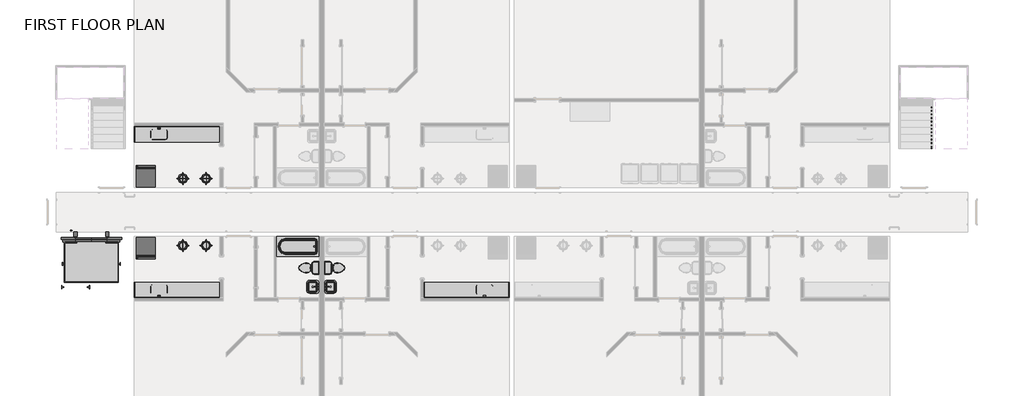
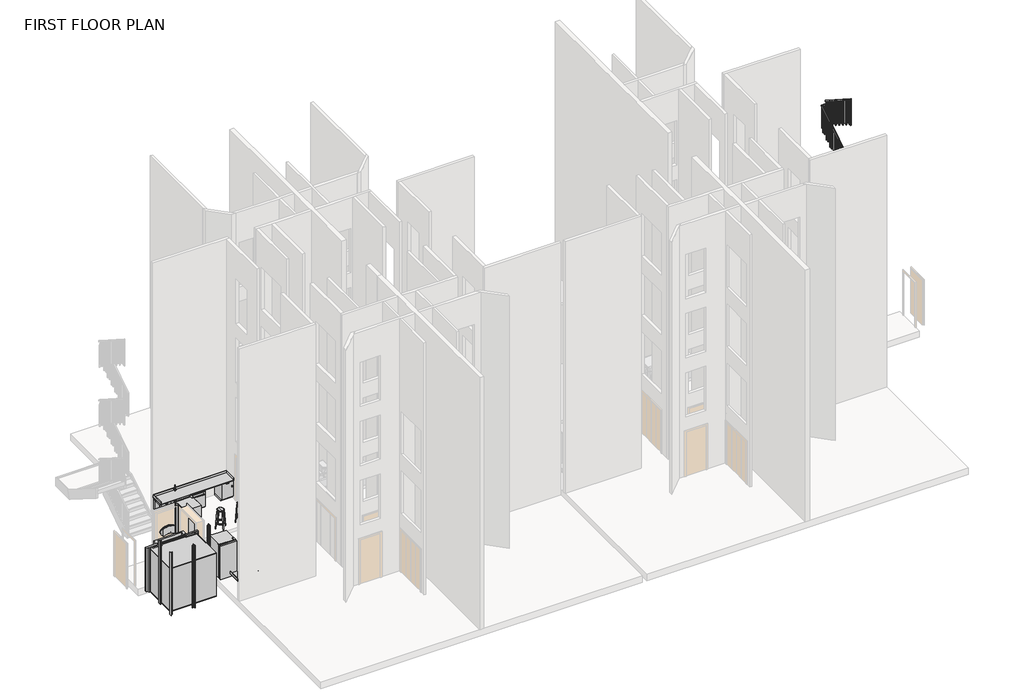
# One storey, part 5 of 7: 21 furniture elements, 8 flow terminals, 6 proxies, 1 railing.
"""IFC4 building model written with IfcOpenShell, lengths in millimetres."""

from ifc_helpers import new_model, si_unit, frame, origin, place, context, project, spatial, polyline, outline, extrude, transform, mapped, element, save
from components import specialty_equipment_021a704d, specialty_equipment_83a1406d, elevator_updated_4116_1_2100_x_1100mm_5fb4b6ca, k2515_dishwasher_household_k2515_dishwasher_household_cf2658f5, lsy_sink_1a_065a4558, lsy_sink_1a_83b20bf5, flow_terminal_62a433f7, toilet_domestic_3d_toilet_domestic_3d_f7549cf7, toilet_domestic_3d_toilet_domestic_3d_183bbd19, toilet_domestic_3d_toilet_domestic_3d_a08e12bc, toilet_domestic_3d_toilet_domestic_3d_5530cc89, tub_rectangular_3d_tub_rectangular_3d_4e1d8e59, hb12_hb12_18_c50c6706, hb12_hb12_21_dfdbf895, hb12_hb12_21_72806c5e, hp_1_35d8efb3, lsy_bench_top_24dx36h_e849d271, lsy_bench_top_24dx36h_08832318, lab_stool_lab_stool_8e3c4d68, lab_stool_lab_stool_061d08b2, sb02_sb2_36_93bd8c5c

model = new_model("IFC4")

# Units and contexts
model_context = context("Model", 3, world=origin())
ifc_project = project(units=[si_unit("LENGTHUNIT", "METRE", prefix="MILLI")], contexts=[model_context])

# Site, building, storey
site = spatial("IfcSite", under=ifc_project)
building = spatial("IfcBuilding", under=site)
storey = spatial("IfcBuildingStorey", under=building, Name="FIRST FLOOR PLAN", Elevation=0.0)

# Proxies
placement = place(None, origin())
specialty_equipment_shape = specialty_equipment_021a704d(model_context)
element("IfcBuildingElementProxy", 1, Name="R7000 - Refrigerator, 14 Cubic Feet : R7000 - Refrigerator, 14 Cubic Feet", ObjectType="R7000 - Refrigerator, 14 Cubic Feet : R7000 - Refrigerator, 14 Cubic Feet", at=placement, inside=storey, context=model_context, shape_type="MappedRepresentation", body=[
    mapped(specialty_equipment_shape, transform((-4739.6915125, 4094.7137881, 0.0), x_axis=(1.0, 0.0, 0.0), y_axis=(0.0, 1.0, 0.0), z_axis=(0.0, 0.0, 1.0))),
])
specialty_equipment_2_shape = specialty_equipment_83a1406d(model_context)
element("IfcBuildingElementProxy", 2, Name="R7000 - Refrigerator, 14 Cubic Feet : R7000 - Refrigerator, 14 Cubic Feet", ObjectType="R7000 - Refrigerator, 14 Cubic Feet : R7000 - Refrigerator, 14 Cubic Feet", at=placement, inside=storey, context=model_context, shape_type="MappedRepresentation", body=[
    mapped(specialty_equipment_2_shape, transform((-4739.6915125, 6904.9137881, 0.0), x_axis=(1.0, 0.0, 0.0), y_axis=(0.0, 1.0, 0.0), z_axis=(0.0, 0.0, 1.0))),
])
element("IfcBuildingElementProxy", 3, Name="R7000 - Refrigerator, 14 Cubic Feet : R7000 - Refrigerator, 14 Cubic Feet", ObjectType="R7000 - Refrigerator, 14 Cubic Feet : R7000 - Refrigerator, 14 Cubic Feet", at=placement, inside=storey, context=model_context, shape_type="MappedRepresentation", body=[
    mapped(specialty_equipment_2_shape, transform((-4739.6915125, 6904.9137881, 0.0), x_axis=(1.0, 0.0, 0.0), y_axis=(0.0, 1.0, 0.0), z_axis=(0.0, 0.0, 1.0))),
])
element("IfcBuildingElementProxy", 4, Name="R7000 - Refrigerator, 14 Cubic Feet : R7000 - Refrigerator, 14 Cubic Feet", ObjectType="R7000 - Refrigerator, 14 Cubic Feet : R7000 - Refrigerator, 14 Cubic Feet", at=placement, inside=storey, context=model_context, shape_type="MappedRepresentation", body=[
    mapped(specialty_equipment_2_shape, transform((-4739.6915125, 6904.9137881, 0.0), x_axis=(1.0, 0.0, 0.0), y_axis=(0.0, 1.0, 0.0), z_axis=(0.0, 0.0, 1.0))),
])
elevator_updated_4116_1_2100_x_1100mm_shape = elevator_updated_4116_1_2100_x_1100mm_5fb4b6ca(model_context)
element("IfcBuildingElementProxy", 5, Name="Elevator_updated_4116 (1) : 2100 x 1100mm", ObjectType="Elevator_updated_4116 (1) : 2100 x 1100mm", at=placement, inside=storey, context=model_context, shape_type="MappedRepresentation", body=[
    mapped(elevator_updated_4116_1_2100_x_1100mm_shape, transform((-6636.3967221, 4208.6087711, 0.0), x_axis=(-1.0, 0.0, 0.0), y_axis=(0.0, -1.0, 0.0), z_axis=(0.0, 0.0, 1.0))),
])
k2515_dishwasher_household_k2515_dishwasher_household_shape = k2515_dishwasher_household_k2515_dishwasher_household_cf2658f5(model_context)
element("IfcBuildingElementProxy", 6, Name="K2515 - Dishwasher, Household : K2515 - Dishwasher, Household", ObjectType="K2515 - Dishwasher, Household : K2515 - Dishwasher, Household", at=placement, inside=storey, context=model_context, shape_type="MappedRepresentation", body=[
    mapped(k2515_dishwasher_household_k2515_dishwasher_household_shape, transform((-3453.9790125, 8530.5137881, 0.0), x_axis=(1.0, 0.0, 0.0), y_axis=(0.0, 1.0, 0.0), z_axis=(0.0, 0.0, 1.0))),
])

# Flow terminals
lsy_sink_1a_shape = lsy_sink_1a_065a4558(model_context)
element("IfcFlowTerminal", 7, ObjectType="LSY_Sink_1A : 25\"W x 15\"D", at=placement, inside=storey, context=model_context, shape_type="MappedRepresentation", body=[
    mapped(lsy_sink_1a_shape, transform((-4245.7932531, 8626.5933869, -38.1), x_axis=(1.0, 0.0, 0.0), y_axis=(0.0, 1.0, 0.0), z_axis=(0.0, 0.0, 1.0))),
])
lsy_sink_1a_2_shape = lsy_sink_1a_83b20bf5(model_context)
element("IfcFlowTerminal", 8, ObjectType="LSY_Sink_1A : 25\"W x 15\"D", at=placement, inside=storey, context=model_context, shape_type="MappedRepresentation", body=[
    mapped(lsy_sink_1a_2_shape, transform((-4245.7932531, 2373.0341892, -38.1), x_axis=(1.0, 0.0, 0.0), y_axis=(0.0, 1.0, 0.0), z_axis=(0.0, 0.0, 1.0))),
])
element("IfcFlowTerminal", 9, ObjectType="LSY_Sink_1A : 25\"W x 15\"D", at=placement, inside=storey, context=model_context, shape_type="MappedRepresentation", body=[
    mapped(lsy_sink_1a_2_shape, transform((-4245.7932531, 2373.0341892, -38.1), x_axis=(1.0, 0.0, 0.0), y_axis=(0.0, 1.0, 0.0), z_axis=(0.0, 0.0, 1.0))),
])
flow_terminal_shape = flow_terminal_62a433f7(model_context)
element("IfcFlowTerminal", 10, ObjectType="Sink Vanity-Square : 20\" x 18\"", at=placement, inside=storey, context=model_context, shape_type="MappedRepresentation", body=[
    mapped(flow_terminal_shape, transform((2408.1538885, 2567.7245475, 0.0), x_axis=(0.0, 1.0, 0.0), y_axis=(-1.0, 0.0, 0.0), z_axis=(0.0, 0.0, 1.0))),
])
element("IfcFlowTerminal", 11, ObjectType="Sink Vanity-Square : 20\" x 18\"", at=placement, inside=storey, context=model_context, shape_type="MappedRepresentation", body=[
    mapped(flow_terminal_shape, transform((1815.7630863, 2599.1030286, 0.0), x_axis=(0.0, -1.0, 0.0), y_axis=(1.0, 0.0, 0.0), z_axis=(0.0, 0.0, 1.0))),
])
toilet_domestic_3d_toilet_domestic_3d_shape = toilet_domestic_3d_toilet_domestic_3d_f7549cf7(model_context)
toilet_domestic_3d_toilet_domestic_3d_2_shape = toilet_domestic_3d_toilet_domestic_3d_183bbd19(model_context)
element("IfcFlowTerminal", 12, ObjectType="Toilet-Domestic-3D : Toilet-Domestic-3D", at=placement, inside=storey, context=model_context, shape_type="MappedRepresentation", body=[
    mapped(toilet_domestic_3d_toilet_domestic_3d_shape, transform((2710.0045148, 3320.0137881, 0.0), x_axis=(0.0, 1.0, 0.0), y_axis=(-1.0, 0.0, 0.0), z_axis=(0.0, 0.0, 1.0))),
    mapped(toilet_domestic_3d_toilet_domestic_3d_2_shape, transform((2710.0045148, 3320.0137881, 0.0), x_axis=(0.0, 1.0, 0.0), y_axis=(-1.0, 0.0, 0.0), z_axis=(0.0, 0.0, 1.0))),
])
toilet_domestic_3d_toilet_domestic_3d_3_shape = toilet_domestic_3d_toilet_domestic_3d_a08e12bc(model_context)
toilet_domestic_3d_toilet_domestic_3d_4_shape = toilet_domestic_3d_toilet_domestic_3d_5530cc89(model_context)
element("IfcFlowTerminal", 13, ObjectType="Toilet-Domestic-3D : Toilet-Domestic-3D", at=placement, inside=storey, context=model_context, shape_type="MappedRepresentation", body=[
    mapped(toilet_domestic_3d_toilet_domestic_3d_3_shape, transform((1526.6124601, 3320.0137881, 0.0), x_axis=(0.0, 1.0, 0.0), y_axis=(-1.0, 0.0, 0.0), z_axis=(0.0, 0.0, 1.0))),
    mapped(toilet_domestic_3d_toilet_domestic_3d_4_shape, transform((1526.6124601, 3320.0137881, 0.0), x_axis=(0.0, 1.0, 0.0), y_axis=(-1.0, 0.0, 0.0), z_axis=(0.0, 0.0, 1.0))),
])
tub_rectangular_3d_tub_rectangular_3d_shape = tub_rectangular_3d_tub_rectangular_3d_4e1d8e59(model_context)
element("IfcFlowTerminal", 14, ObjectType="Tub-Rectangular-3D : Tub-Rectangular-3D", at=placement, inside=storey, context=model_context, shape_type="MappedRepresentation", body=[
    mapped(tub_rectangular_3d_tub_rectangular_3d_shape, transform((910.7055188, 4636.2137881, 0.0), x_axis=(-1.0, 0.0, 0.0), y_axis=(0.0, -1.0, 0.0), z_axis=(0.0, 0.0, 1.0))),
])

# Furniture
hb12_hb12_18_shape = hb12_hb12_18_c50c6706(model_context)
element("IfcFurniture", 15, ObjectType="HB12 : HB12-18", at=placement, inside=storey, context=model_context, shape_type="MappedRepresentation", body=[
    mapped(hb12_hb12_18_shape, transform((-4883.0413076, 8848.0137881, 0.0), x_axis=(-1.0, 0.0, 0.0), y_axis=(0.0, -1.0, 0.0), z_axis=(0.0, 0.0, 1.0))),
])
hb12_hb12_21_shape = hb12_hb12_21_dfdbf895(model_context)
element("IfcFurniture", 16, ObjectType="HB12 : HB12-21", at=placement, inside=storey, context=model_context, shape_type="MappedRepresentation", body=[
    mapped(hb12_hb12_21_shape, transform((6377.4211924, 2151.6137881, 0.0), x_axis=(-1.0, 0.0, 0.0), y_axis=(0.0, -1.0, 0.0), z_axis=(0.0, 0.0, 1.0))),
])
element("IfcFurniture", 17, ObjectType="HB12 : HB12-21", at=placement, inside=storey, context=model_context, shape_type="MappedRepresentation", body=[
    mapped(hb12_hb12_21_shape, transform((-2140.8042175, 8848.0137881, 0.0), x_axis=(1.0, 0.0, 0.0), y_axis=(0.0, 1.0, 0.0), z_axis=(0.0, 0.0, 1.0))),
])
hb12_hb12_21_2_shape = hb12_hb12_21_72806c5e(model_context)
element("IfcFurniture", 18, ObjectType="HB12 : HB12-21", at=placement, inside=storey, context=model_context, shape_type="MappedRepresentation", body=[
    mapped(hb12_hb12_21_2_shape, transform((-2140.8042175, 2151.6137881, 0.0), x_axis=(1.0, 0.0, 0.0), y_axis=(0.0, 1.0, 0.0), z_axis=(0.0, 0.0, 1.0))),
])
element("IfcFurniture", 19, ObjectType="HB12 : HB12-21", at=placement, inside=storey, context=model_context, shape_type="MappedRepresentation", body=[
    mapped(hb12_hb12_21_2_shape, transform((-2140.8042175, 2151.6137881, 0.0), x_axis=(1.0, 0.0, 0.0), y_axis=(0.0, 1.0, 0.0), z_axis=(0.0, 0.0, 1.0))),
])
hp_1_shape = hp_1_35d8efb3(model_context)
element("IfcFurniture", 20, ObjectType="HP-LP : HP-1", at=placement, inside=storey, context=model_context, shape_type="MappedRepresentation", body=[
    mapped(hp_1_shape, transform((-5137.0413076, 8340.2137881, 0.0), x_axis=(-1.0, 0.0, 0.0), y_axis=(0.0, -1.0, 0.0), z_axis=(0.0, 0.0, 1.0))),
])
lsy_bench_top_24dx36h_shape = lsy_bench_top_24dx36h_e849d271(model_context)
element("IfcFurniture", 21, ObjectType="LSY_Bench Top : 24Dx36H", at=placement, inside=storey, context=model_context, shape_type="MappedRepresentation", body=[
    mapped(lsy_bench_top_24dx36h_shape, transform((7285.9332825, 1536.6137881, -12.7), x_axis=(1.0, 0.0, 0.0), y_axis=(0.0, 1.0, 0.0), z_axis=(0.0, 0.0, 1.0))),
])
element("IfcFurniture", 22, ObjectType="LSY_Bench Top : 24Dx36H", at=placement, inside=storey, context=model_context, shape_type="MappedRepresentation", body=[
    mapped(lsy_bench_top_24dx36h_shape, transform((-3049.3163076, 9463.0137881, -12.7), x_axis=(-1.0, 0.0, 0.0), y_axis=(0.0, -1.0, 0.0), z_axis=(0.0, 0.0, 1.0))),
])
element("IfcFurniture", 23, ObjectType="LSY_Bench Top : 24Dx36H", at=placement, inside=storey, context=model_context, shape_type="MappedRepresentation", body=[
    mapped(lsy_bench_top_24dx36h_shape, transform((-3049.3163076, 9463.0137881, -12.7), x_axis=(-1.0, 0.0, 0.0), y_axis=(0.0, -1.0, 0.0), z_axis=(0.0, 0.0, 1.0))),
])
lsy_bench_top_24dx36h_2_shape = lsy_bench_top_24dx36h_08832318(model_context)
element("IfcFurniture", 24, ObjectType="LSY_Bench Top : 24Dx36H", at=placement, inside=storey, context=model_context, shape_type="MappedRepresentation", body=[
    mapped(lsy_bench_top_24dx36h_2_shape, transform((-3049.3163076, 1536.6137881, -12.7), x_axis=(-1.0, 0.0, 0.0), y_axis=(0.0, -1.0, 0.0), z_axis=(0.0, 0.0, 1.0))),
])
element("IfcFurniture", 25, ObjectType="LSY_Bench Top : 24Dx36H", at=placement, inside=storey, context=model_context, shape_type="MappedRepresentation", body=[
    mapped(lsy_bench_top_24dx36h_2_shape, transform((-3049.3163076, 1536.6137881, -12.7), x_axis=(-1.0, 0.0, 0.0), y_axis=(0.0, -1.0, 0.0), z_axis=(0.0, 0.0, 1.0))),
])
element("IfcFurniture", 26, ObjectType="LSY_Bench Top : 24Dx36H", at=placement, inside=storey, context=model_context, shape_type="MappedRepresentation", body=[
    mapped(lsy_bench_top_24dx36h_2_shape, transform((-3049.3163076, 1536.6137881, -12.7), x_axis=(-1.0, 0.0, 0.0), y_axis=(0.0, -1.0, 0.0), z_axis=(0.0, 0.0, 1.0))),
])
lab_stool_lab_stool_shape = lab_stool_lab_stool_8e3c4d68(model_context)
element("IfcFurniture", 27, ObjectType="Lab Stool : Lab Stool", at=placement, inside=storey, context=model_context, shape_type="MappedRepresentation", body=[
    mapped(lab_stool_lab_stool_shape, transform((-2394.2040125, 6807.5678663, 0.0), x_axis=(1.0, 0.0, 0.0), y_axis=(0.0, 1.0, 0.0), z_axis=(0.0, 0.0, 1.0))),
])
element("IfcFurniture", 28, ObjectType="Lab Stool : Lab Stool", at=placement, inside=storey, context=model_context, shape_type="MappedRepresentation", body=[
    mapped(lab_stool_lab_stool_shape, transform((-3297.4040125, 4192.0597098, 0.0), x_axis=(-1.0, 0.0, 0.0), y_axis=(0.0, -1.0, 0.0), z_axis=(0.0, 0.0, 1.0))),
])
element("IfcFurniture", 29, ObjectType="Lab Stool : Lab Stool", at=placement, inside=storey, context=model_context, shape_type="MappedRepresentation", body=[
    mapped(lab_stool_lab_stool_shape, transform((-2394.2040125, 6807.5678663, 0.0), x_axis=(1.0, 0.0, 0.0), y_axis=(0.0, 1.0, 0.0), z_axis=(0.0, 0.0, 1.0))),
])
element("IfcFurniture", 30, ObjectType="Lab Stool : Lab Stool", at=placement, inside=storey, context=model_context, shape_type="MappedRepresentation", body=[
    mapped(lab_stool_lab_stool_shape, transform((-3297.4040125, 4192.0597098, 0.0), x_axis=(-1.0, 0.0, 0.0), y_axis=(0.0, -1.0, 0.0), z_axis=(0.0, 0.0, 1.0))),
])
lab_stool_lab_stool_2_shape = lab_stool_lab_stool_061d08b2(model_context)
element("IfcFurniture", 31, ObjectType="Lab Stool : Lab Stool", at=placement, inside=storey, context=model_context, shape_type="MappedRepresentation", body=[
    mapped(lab_stool_lab_stool_2_shape, transform((-3297.4040125, 6807.5678663, 0.0), x_axis=(-1.0, 0.0, 0.0), y_axis=(0.0, -1.0, 0.0), z_axis=(0.0, 0.0, 1.0))),
])
element("IfcFurniture", 32, ObjectType="Lab Stool : Lab Stool", at=placement, inside=storey, context=model_context, shape_type="MappedRepresentation", body=[
    mapped(lab_stool_lab_stool_2_shape, transform((-2394.2040125, 4192.0597098, 0.0), x_axis=(1.0, 0.0, 0.0), y_axis=(0.0, 1.0, 0.0), z_axis=(0.0, 0.0, 1.0))),
])
element("IfcFurniture", 33, ObjectType="Lab Stool : Lab Stool", at=placement, inside=storey, context=model_context, shape_type="MappedRepresentation", body=[
    mapped(lab_stool_lab_stool_2_shape, transform((-3297.4040125, 6807.5678663, 0.0), x_axis=(-1.0, 0.0, 0.0), y_axis=(0.0, -1.0, 0.0), z_axis=(0.0, 0.0, 1.0))),
])
element("IfcFurniture", 34, ObjectType="Lab Stool : Lab Stool", at=placement, inside=storey, context=model_context, shape_type="MappedRepresentation", body=[
    mapped(lab_stool_lab_stool_2_shape, transform((-2394.2040125, 4192.0597098, 0.0), x_axis=(1.0, 0.0, 0.0), y_axis=(0.0, 1.0, 0.0), z_axis=(0.0, 0.0, 1.0))),
])
sb02_sb2_36_shape = sb02_sb2_36_93bd8c5c(model_context)
element("IfcFurniture", 35, ObjectType="SB02 : SB2-36", at=placement, inside=storey, context=model_context, shape_type="MappedRepresentation", body=[
    mapped(sb02_sb2_36_shape, transform((-4234.7167175, 8848.2137881, 0.0), x_axis=(1.0, 0.0, 0.0), y_axis=(0.0, 1.0, 0.0), z_axis=(0.0, 0.0, 1.0))),
])

# Railing
element("IfcRailing", 36, ObjectType="1100mm", at=placement, inside=storey, context=model_context, shape_type="SweptSolid", body=[
    extrude(outline(polyline([(0.0, -50.0), (0.0, 0.0), (2318.2283753, 0.0), (2318.2283753, -50.0), (0.0, -50.0)])), frame((25861.7084875, 8008.8443747, 6925.2169259), z_axis=(0.0, -0.5368754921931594, 0.8436614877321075), x_axis=(0.0, 0.8436614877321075, 0.5368754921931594)), (0.0, 0.0, 1.0), 50.0),
    extrude(outline(polyline([(25861.7084875, 9913.2006), (25861.7084875, 9963.2006), (26039.6237309, 9963.2006), (26039.6237309, 9913.2006), (25861.7084875, 9913.2006)])), frame((0.0, 0.0, 8162.0000003), z_axis=(0.0, 0.0, 1.0), x_axis=(1.0, 0.0, 0.0)), (0.0, 0.0, 1.0), 50.0),
    extrude(outline(polyline([(9963.2006, 8373.6363639), (9963.2006, 8314.3708875), (7982.0006, 9575.1345239), (7982.0006, 9634.4000003), (9963.2006, 8373.6363639)])), frame((26039.6237309, 0.0, 0.0), z_axis=(1.0, 0.0, 0.0), x_axis=(0.0, 1.0, 0.0)), (0.0, 0.0, 1.0), 50.0),
    extrude(outline(polyline([(8064.7506, 9531.7409094), (8064.7506, 8356.6000003), (8039.7506, 8356.6000003), (8039.7506, 9547.6500003), (8064.7506, 9531.7409094)])), frame((26052.1237309, 0.0, 0.0), z_axis=(1.0, 0.0, 0.0), x_axis=(0.0, 1.0, 0.0)), (0.0, 0.0, 1.0), 25.0),
    extrude(outline(polyline([(8204.4506, 9442.8409094), (8204.4506, 8356.6000003), (8179.4506, 8356.6000003), (8179.4506, 9458.7500003), (8204.4506, 9442.8409094)])), frame((26052.1237309, 0.0, 0.0), z_axis=(1.0, 0.0, 0.0), x_axis=(0.0, 1.0, 0.0)), (0.0, 0.0, 1.0), 25.0),
    extrude(outline(polyline([(8344.1506, 9353.9409094), (8344.1506, 8178.8000003), (8319.1506, 8178.8000003), (8319.1506, 9369.8500003), (8344.1506, 9353.9409094)])), frame((26052.1237309, 0.0, 0.0), z_axis=(1.0, 0.0, 0.0), x_axis=(0.0, 1.0, 0.0)), (0.0, 0.0, 1.0), 25.0),
    extrude(outline(polyline([(8483.8506, 9265.0409094), (8483.8506, 8178.8000003), (8458.8506, 8178.8000003), (8458.8506, 9280.9500003), (8483.8506, 9265.0409094)])), frame((26052.1237309, 0.0, 0.0), z_axis=(1.0, 0.0, 0.0), x_axis=(0.0, 1.0, 0.0)), (0.0, 0.0, 1.0), 25.0),
    extrude(outline(polyline([(8623.5506, 9176.1409094), (8623.5506, 8001.0000003), (8598.5506, 8001.0000003), (8598.5506, 9192.0500003), (8623.5506, 9176.1409094)])), frame((26052.1237309, 0.0, 0.0), z_axis=(1.0, 0.0, 0.0), x_axis=(0.0, 1.0, 0.0)), (0.0, 0.0, 1.0), 25.0),
    extrude(outline(polyline([(8763.2506, 9087.2409094), (8763.2506, 8001.0000003), (8738.2506, 8001.0000003), (8738.2506, 9103.1500003), (8763.2506, 9087.2409094)])), frame((26052.1237309, 0.0, 0.0), z_axis=(1.0, 0.0, 0.0), x_axis=(0.0, 1.0, 0.0)), (0.0, 0.0, 1.0), 25.0),
    extrude(outline(polyline([(8902.9506, 8998.3409094), (8902.9506, 7823.2000003), (8877.9506, 7823.2000003), (8877.9506, 9014.2500003), (8902.9506, 8998.3409094)])), frame((26052.1237309, 0.0, 0.0), z_axis=(1.0, 0.0, 0.0), x_axis=(0.0, 1.0, 0.0)), (0.0, 0.0, 1.0), 25.0),
    extrude(outline(polyline([(9042.6506, 8909.4409094), (9042.6506, 7823.2000003), (9017.6506, 7823.2000003), (9017.6506, 8925.3500003), (9042.6506, 8909.4409094)])), frame((26052.1237309, 0.0, 0.0), z_axis=(1.0, 0.0, 0.0), x_axis=(0.0, 1.0, 0.0)), (0.0, 0.0, 1.0), 25.0),
    extrude(outline(polyline([(9182.3506, 8820.5409094), (9182.3506, 7645.4000003), (9157.3506, 7645.4000003), (9157.3506, 8836.4500003), (9182.3506, 8820.5409094)])), frame((26052.1237309, 0.0, 0.0), z_axis=(1.0, 0.0, 0.0), x_axis=(0.0, 1.0, 0.0)), (0.0, 0.0, 1.0), 25.0),
    extrude(outline(polyline([(9322.0506, 8731.6409094), (9322.0506, 7645.4000003), (9297.0506, 7645.4000003), (9297.0506, 8747.5500003), (9322.0506, 8731.6409094)])), frame((26052.1237309, 0.0, 0.0), z_axis=(1.0, 0.0, 0.0), x_axis=(0.0, 1.0, 0.0)), (0.0, 0.0, 1.0), 25.0),
    extrude(outline(polyline([(9461.7506, 8642.7409094), (9461.7506, 7467.6000003), (9436.7506, 7467.6000003), (9436.7506, 8658.6500003), (9461.7506, 8642.7409094)])), frame((26052.1237309, 0.0, 0.0), z_axis=(1.0, 0.0, 0.0), x_axis=(0.0, 1.0, 0.0)), (0.0, 0.0, 1.0), 25.0),
    extrude(outline(polyline([(9601.4506, 8553.8409094), (9601.4506, 7467.6000003), (9576.4506, 7467.6000003), (9576.4506, 8569.7500003), (9601.4506, 8553.8409094)])), frame((26052.1237309, 0.0, 0.0), z_axis=(1.0, 0.0, 0.0), x_axis=(0.0, 1.0, 0.0)), (0.0, 0.0, 1.0), 25.0),
    extrude(outline(polyline([(9741.1506, 8464.9409094), (9741.1506, 7289.8000003), (9716.1506, 7289.8000003), (9716.1506, 8480.8500003), (9741.1506, 8464.9409094)])), frame((26052.1237309, 0.0, 0.0), z_axis=(1.0, 0.0, 0.0), x_axis=(0.0, 1.0, 0.0)), (0.0, 0.0, 1.0), 25.0),
    extrude(outline(polyline([(9880.8506, 8376.0409094), (9880.8506, 7289.8000003), (9855.8506, 7289.8000003), (9855.8506, 8391.9500003), (9880.8506, 8376.0409094)])), frame((26052.1237309, 0.0, 0.0), z_axis=(1.0, 0.0, 0.0), x_axis=(0.0, 1.0, 0.0)), (0.0, 0.0, 1.0), 25.0),
    extrude(outline(polyline([(25944.0584875, 9925.7006), (25944.0584875, 9950.7006), (25969.0584875, 9950.7006), (25969.0584875, 9925.7006), (25944.0584875, 9925.7006)])), frame((0.0, 0.0, 7112.0000003), z_axis=(0.0, 0.0, 1.0), x_axis=(1.0, 0.0, 0.0)), (0.0, 0.0, 1.0), 1050.0),
    extrude(outline(polyline([(9855.4506, 6934.2000003), (9855.4506, 8109.5954549), (9880.4506, 8125.5045458), (9880.4506, 6934.2000003), (9855.4506, 6934.2000003)])), frame((25874.2084875, 0.0, 0.0), z_axis=(1.0, 0.0, 0.0), x_axis=(0.0, 1.0, 0.0)), (0.0, 0.0, 1.0), 25.0),
    extrude(outline(polyline([(9715.7506, 6934.2000003), (9715.7506, 8020.6954549), (9740.7506, 8036.6045458), (9740.7506, 6934.2000003), (9715.7506, 6934.2000003)])), frame((25874.2084875, 0.0, 0.0), z_axis=(1.0, 0.0, 0.0), x_axis=(0.0, 1.0, 0.0)), (0.0, 0.0, 1.0), 25.0),
    extrude(outline(polyline([(9576.0506, 6756.4000003), (9576.0506, 7931.7954549), (9601.0506, 7947.7045458), (9601.0506, 6756.4000003), (9576.0506, 6756.4000003)])), frame((25874.2084875, 0.0, 0.0), z_axis=(1.0, 0.0, 0.0), x_axis=(0.0, 1.0, 0.0)), (0.0, 0.0, 1.0), 25.0),
    extrude(outline(polyline([(9436.3506, 6756.4000003), (9436.3506, 7842.8954549), (9461.3506, 7858.8045458), (9461.3506, 6756.4000003), (9436.3506, 6756.4000003)])), frame((25874.2084875, 0.0, 0.0), z_axis=(1.0, 0.0, 0.0), x_axis=(0.0, 1.0, 0.0)), (0.0, 0.0, 1.0), 25.0),
    extrude(outline(polyline([(9296.6506, 6578.6000003), (9296.6506, 7753.9954549), (9321.6506, 7769.9045458), (9321.6506, 6578.6000003), (9296.6506, 6578.6000003)])), frame((25874.2084875, 0.0, 0.0), z_axis=(1.0, 0.0, 0.0), x_axis=(0.0, 1.0, 0.0)), (0.0, 0.0, 1.0), 25.0),
    extrude(outline(polyline([(9156.9506, 6578.6000003), (9156.9506, 7665.0954549), (9181.9506, 7681.0045458), (9181.9506, 6578.6000003), (9156.9506, 6578.6000003)])), frame((25874.2084875, 0.0, 0.0), z_axis=(1.0, 0.0, 0.0), x_axis=(0.0, 1.0, 0.0)), (0.0, 0.0, 1.0), 25.0),
    extrude(outline(polyline([(9017.2506, 6400.8000003), (9017.2506, 7576.1954549), (9042.2506, 7592.1045458), (9042.2506, 6400.8000003), (9017.2506, 6400.8000003)])), frame((25874.2084875, 0.0, 0.0), z_axis=(1.0, 0.0, 0.0), x_axis=(0.0, 1.0, 0.0)), (0.0, 0.0, 1.0), 25.0),
    extrude(outline(polyline([(8877.5506, 6400.8000003), (8877.5506, 7487.2954549), (8902.5506, 7503.2045458), (8902.5506, 6400.8000003), (8877.5506, 6400.8000003)])), frame((25874.2084875, 0.0, 0.0), z_axis=(1.0, 0.0, 0.0), x_axis=(0.0, 1.0, 0.0)), (0.0, 0.0, 1.0), 25.0),
    extrude(outline(polyline([(8737.8506, 6223.0000003), (8737.8506, 7398.3954549), (8762.8506, 7414.3045458), (8762.8506, 6223.0000003), (8737.8506, 6223.0000003)])), frame((25874.2084875, 0.0, 0.0), z_axis=(1.0, 0.0, 0.0), x_axis=(0.0, 1.0, 0.0)), (0.0, 0.0, 1.0), 25.0),
    extrude(outline(polyline([(8598.1506, 6223.0000003), (8598.1506, 7309.4954549), (8623.1506, 7325.4045458), (8623.1506, 6223.0000003), (8598.1506, 6223.0000003)])), frame((25874.2084875, 0.0, 0.0), z_axis=(1.0, 0.0, 0.0), x_axis=(0.0, 1.0, 0.0)), (0.0, 0.0, 1.0), 25.0),
    extrude(outline(polyline([(8458.4506, 6045.2000003), (8458.4506, 7220.5954549), (8483.4506, 7236.5045458), (8483.4506, 6045.2000003), (8458.4506, 6045.2000003)])), frame((25874.2084875, 0.0, 0.0), z_axis=(1.0, 0.0, 0.0), x_axis=(0.0, 1.0, 0.0)), (0.0, 0.0, 1.0), 25.0),
    extrude(outline(polyline([(8318.7506, 6045.2000003), (8318.7506, 7131.6954549), (8343.7506, 7147.6045458), (8343.7506, 6045.2000003), (8318.7506, 6045.2000003)])), frame((25874.2084875, 0.0, 0.0), z_axis=(1.0, 0.0, 0.0), x_axis=(0.0, 1.0, 0.0)), (0.0, 0.0, 1.0), 25.0),
    extrude(outline(polyline([(8179.0506, 5867.4000003), (8179.0506, 7042.7954549), (8204.0506, 7058.7045458), (8204.0506, 5867.4000003), (8179.0506, 5867.4000003)])), frame((25874.2084875, 0.0, 0.0), z_axis=(1.0, 0.0, 0.0), x_axis=(0.0, 1.0, 0.0)), (0.0, 0.0, 1.0), 25.0),
    extrude(outline(polyline([(8039.3506, 5867.4000003), (8039.3506, 6953.8954549), (8064.3506, 6969.8045458), (8064.3506, 5867.4000003), (8039.3506, 5867.4000003)])), frame((25874.2084875, 0.0, 0.0), z_axis=(1.0, 0.0, 0.0), x_axis=(0.0, 1.0, 0.0)), (0.0, 0.0, 1.0), 25.0),
    extrude(outline(polyline([(26052.1237309, 9925.7006), (26052.1237309, 9950.7006), (26077.1237309, 9950.7006), (26077.1237309, 9925.7006), (26052.1237309, 9925.7006)])), frame((0.0, 0.0, 7112.0000003), z_axis=(0.0, 0.0, 1.0), x_axis=(1.0, 0.0, 0.0)), (0.0, 0.0, 1.0), 1050.0),
    extrude(outline(polyline([(25899.2084875, 9925.7006), (25874.2084875, 9925.7006), (25874.2084875, 9950.7006), (25899.2084875, 9950.7006), (25899.2084875, 9925.7006)])), frame((0.0, 0.0, 7112.0000003), z_axis=(0.0, 0.0, 1.0), x_axis=(1.0, 0.0, 0.0)), (0.0, 0.0, 1.0), 1050.0),
    extrude(outline(polyline([(8007.0006, 9568.4909094), (8007.0006, 8356.6000003), (7982.0006, 8356.6000003), (7982.0006, 9584.4000003), (8007.0006, 9568.4909094)])), frame((26052.1237309, 0.0, 0.0), z_axis=(1.0, 0.0, 0.0), x_axis=(0.0, 1.0, 0.0)), (0.0, 0.0, 1.0), 25.0),
    extrude(outline(polyline([(7982.0006, 5867.4000003), (7982.0006, 6917.4000003), (8007.0006, 6933.3090912), (8007.0006, 5867.4000003), (7982.0006, 5867.4000003)])), frame((25874.2084875, 0.0, 0.0), z_axis=(1.0, 0.0, 0.0), x_axis=(0.0, 1.0, 0.0)), (0.0, 0.0, 1.0), 25.0),
    extrude(outline(polyline([(0.0, -50.0), (0.0, 0.0), (2318.2283753, 0.0), (2318.2283753, -50.0), (0.0, -50.0)])), frame((25861.7084875, 8008.8443747, 4080.4169259), z_axis=(0.0, -0.5368754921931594, 0.8436614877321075), x_axis=(0.0, 0.8436614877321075, 0.5368754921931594)), (0.0, 0.0, 1.0), 50.0),
    extrude(outline(polyline([(25861.7084875, 9913.2006), (25861.7084875, 9963.2006), (26039.6237309, 9963.2006), (26039.6237309, 9913.2006), (25861.7084875, 9913.2006)])), frame((0.0, 0.0, 5317.2000003), z_axis=(0.0, 0.0, 1.0), x_axis=(1.0, 0.0, 0.0)), (0.0, 0.0, 1.0), 50.0),
    extrude(outline(polyline([(9963.2006, 5528.8363639), (9963.2006, 5469.5708875), (7982.0006, 6730.3345239), (7982.0006, 6789.6000003), (9963.2006, 5528.8363639)])), frame((26039.6237309, 0.0, 0.0), z_axis=(1.0, 0.0, 0.0), x_axis=(0.0, 1.0, 0.0)), (0.0, 0.0, 1.0), 50.0),
    extrude(outline(polyline([(8064.7506, 6686.9409094), (8064.7506, 5511.8000003), (8039.7506, 5511.8000003), (8039.7506, 6702.8500003), (8064.7506, 6686.9409094)])), frame((26052.1237309, 0.0, 0.0), z_axis=(1.0, 0.0, 0.0), x_axis=(0.0, 1.0, 0.0)), (0.0, 0.0, 1.0), 25.0),
    extrude(outline(polyline([(8204.4506, 6598.0409094), (8204.4506, 5511.8000003), (8179.4506, 5511.8000003), (8179.4506, 6613.9500003), (8204.4506, 6598.0409094)])), frame((26052.1237309, 0.0, 0.0), z_axis=(1.0, 0.0, 0.0), x_axis=(0.0, 1.0, 0.0)), (0.0, 0.0, 1.0), 25.0),
    extrude(outline(polyline([(8344.1506, 6509.1409094), (8344.1506, 5334.0000003), (8319.1506, 5334.0000003), (8319.1506, 6525.0500003), (8344.1506, 6509.1409094)])), frame((26052.1237309, 0.0, 0.0), z_axis=(1.0, 0.0, 0.0), x_axis=(0.0, 1.0, 0.0)), (0.0, 0.0, 1.0), 25.0),
    extrude(outline(polyline([(8483.8506, 6420.2409094), (8483.8506, 5334.0000003), (8458.8506, 5334.0000003), (8458.8506, 6436.1500003), (8483.8506, 6420.2409094)])), frame((26052.1237309, 0.0, 0.0), z_axis=(1.0, 0.0, 0.0), x_axis=(0.0, 1.0, 0.0)), (0.0, 0.0, 1.0), 25.0),
    extrude(outline(polyline([(8623.5506, 6331.3409094), (8623.5506, 5156.2000003), (8598.5506, 5156.2000003), (8598.5506, 6347.2500003), (8623.5506, 6331.3409094)])), frame((26052.1237309, 0.0, 0.0), z_axis=(1.0, 0.0, 0.0), x_axis=(0.0, 1.0, 0.0)), (0.0, 0.0, 1.0), 25.0),
    extrude(outline(polyline([(8763.2506, 6242.4409094), (8763.2506, 5156.2000003), (8738.2506, 5156.2000003), (8738.2506, 6258.3500003), (8763.2506, 6242.4409094)])), frame((26052.1237309, 0.0, 0.0), z_axis=(1.0, 0.0, 0.0), x_axis=(0.0, 1.0, 0.0)), (0.0, 0.0, 1.0), 25.0),
    extrude(outline(polyline([(8902.9506, 6153.5409094), (8902.9506, 4978.4000003), (8877.9506, 4978.4000003), (8877.9506, 6169.4500003), (8902.9506, 6153.5409094)])), frame((26052.1237309, 0.0, 0.0), z_axis=(1.0, 0.0, 0.0), x_axis=(0.0, 1.0, 0.0)), (0.0, 0.0, 1.0), 25.0),
    extrude(outline(polyline([(9042.6506, 6064.6409094), (9042.6506, 4978.4000003), (9017.6506, 4978.4000003), (9017.6506, 6080.5500003), (9042.6506, 6064.6409094)])), frame((26052.1237309, 0.0, 0.0), z_axis=(1.0, 0.0, 0.0), x_axis=(0.0, 1.0, 0.0)), (0.0, 0.0, 1.0), 25.0),
    extrude(outline(polyline([(9182.3506, 5975.7409094), (9182.3506, 4800.6000003), (9157.3506, 4800.6000003), (9157.3506, 5991.6500003), (9182.3506, 5975.7409094)])), frame((26052.1237309, 0.0, 0.0), z_axis=(1.0, 0.0, 0.0), x_axis=(0.0, 1.0, 0.0)), (0.0, 0.0, 1.0), 25.0),
    extrude(outline(polyline([(9322.0506, 5886.8409094), (9322.0506, 4800.6000003), (9297.0506, 4800.6000003), (9297.0506, 5902.7500003), (9322.0506, 5886.8409094)])), frame((26052.1237309, 0.0, 0.0), z_axis=(1.0, 0.0, 0.0), x_axis=(0.0, 1.0, 0.0)), (0.0, 0.0, 1.0), 25.0),
    extrude(outline(polyline([(9461.7506, 5797.9409094), (9461.7506, 4622.8000003), (9436.7506, 4622.8000003), (9436.7506, 5813.8500003), (9461.7506, 5797.9409094)])), frame((26052.1237309, 0.0, 0.0), z_axis=(1.0, 0.0, 0.0), x_axis=(0.0, 1.0, 0.0)), (0.0, 0.0, 1.0), 25.0),
    extrude(outline(polyline([(9601.4506, 5709.0409094), (9601.4506, 4622.8000003), (9576.4506, 4622.8000003), (9576.4506, 5724.9500003), (9601.4506, 5709.0409094)])), frame((26052.1237309, 0.0, 0.0), z_axis=(1.0, 0.0, 0.0), x_axis=(0.0, 1.0, 0.0)), (0.0, 0.0, 1.0), 25.0),
    extrude(outline(polyline([(9741.1506, 5620.1409094), (9741.1506, 4445.0000003), (9716.1506, 4445.0000003), (9716.1506, 5636.0500003), (9741.1506, 5620.1409094)])), frame((26052.1237309, 0.0, 0.0), z_axis=(1.0, 0.0, 0.0), x_axis=(0.0, 1.0, 0.0)), (0.0, 0.0, 1.0), 25.0),
    extrude(outline(polyline([(9880.8506, 5531.2409094), (9880.8506, 4445.0000003), (9855.8506, 4445.0000003), (9855.8506, 5547.1500003), (9880.8506, 5531.2409094)])), frame((26052.1237309, 0.0, 0.0), z_axis=(1.0, 0.0, 0.0), x_axis=(0.0, 1.0, 0.0)), (0.0, 0.0, 1.0), 25.0),
    extrude(outline(polyline([(25944.0584875, 9925.7006), (25944.0584875, 9950.7006), (25969.0584875, 9950.7006), (25969.0584875, 9925.7006), (25944.0584875, 9925.7006)])), frame((0.0, 0.0, 4267.2000003), z_axis=(0.0, 0.0, 1.0), x_axis=(1.0, 0.0, 0.0)), (0.0, 0.0, 1.0), 1050.0),
    extrude(outline(polyline([(9855.4506, 4089.4000003), (9855.4506, 5264.7954549), (9880.4506, 5280.7045458), (9880.4506, 4089.4000003), (9855.4506, 4089.4000003)])), frame((25874.2084875, 0.0, 0.0), z_axis=(1.0, 0.0, 0.0), x_axis=(0.0, 1.0, 0.0)), (0.0, 0.0, 1.0), 25.0),
    extrude(outline(polyline([(9715.7506, 4089.4000003), (9715.7506, 5175.8954549), (9740.7506, 5191.8045458), (9740.7506, 4089.4000003), (9715.7506, 4089.4000003)])), frame((25874.2084875, 0.0, 0.0), z_axis=(1.0, 0.0, 0.0), x_axis=(0.0, 1.0, 0.0)), (0.0, 0.0, 1.0), 25.0),
    extrude(outline(polyline([(9576.0506, 3911.6000003), (9576.0506, 5086.9954549), (9601.0506, 5102.9045458), (9601.0506, 3911.6000003), (9576.0506, 3911.6000003)])), frame((25874.2084875, 0.0, 0.0), z_axis=(1.0, 0.0, 0.0), x_axis=(0.0, 1.0, 0.0)), (0.0, 0.0, 1.0), 25.0),
    extrude(outline(polyline([(9436.3506, 3911.6000003), (9436.3506, 4998.0954549), (9461.3506, 5014.0045458), (9461.3506, 3911.6000003), (9436.3506, 3911.6000003)])), frame((25874.2084875, 0.0, 0.0), z_axis=(1.0, 0.0, 0.0), x_axis=(0.0, 1.0, 0.0)), (0.0, 0.0, 1.0), 25.0),
    extrude(outline(polyline([(9296.6506, 3733.8000003), (9296.6506, 4909.1954549), (9321.6506, 4925.1045458), (9321.6506, 3733.8000003), (9296.6506, 3733.8000003)])), frame((25874.2084875, 0.0, 0.0), z_axis=(1.0, 0.0, 0.0), x_axis=(0.0, 1.0, 0.0)), (0.0, 0.0, 1.0), 25.0),
    extrude(outline(polyline([(9156.9506, 3733.8000003), (9156.9506, 4820.2954549), (9181.9506, 4836.2045458), (9181.9506, 3733.8000003), (9156.9506, 3733.8000003)])), frame((25874.2084875, 0.0, 0.0), z_axis=(1.0, 0.0, 0.0), x_axis=(0.0, 1.0, 0.0)), (0.0, 0.0, 1.0), 25.0),
    extrude(outline(polyline([(9017.2506, 3556.0000003), (9017.2506, 4731.3954549), (9042.2506, 4747.3045458), (9042.2506, 3556.0000003), (9017.2506, 3556.0000003)])), frame((25874.2084875, 0.0, 0.0), z_axis=(1.0, 0.0, 0.0), x_axis=(0.0, 1.0, 0.0)), (0.0, 0.0, 1.0), 25.0),
    extrude(outline(polyline([(8877.5506, 3556.0000003), (8877.5506, 4642.4954549), (8902.5506, 4658.4045458), (8902.5506, 3556.0000003), (8877.5506, 3556.0000003)])), frame((25874.2084875, 0.0, 0.0), z_axis=(1.0, 0.0, 0.0), x_axis=(0.0, 1.0, 0.0)), (0.0, 0.0, 1.0), 25.0),
    extrude(outline(polyline([(8737.8506, 3378.2000003), (8737.8506, 4553.5954549), (8762.8506, 4569.5045458), (8762.8506, 3378.2000003), (8737.8506, 3378.2000003)])), frame((25874.2084875, 0.0, 0.0), z_axis=(1.0, 0.0, 0.0), x_axis=(0.0, 1.0, 0.0)), (0.0, 0.0, 1.0), 25.0),
    extrude(outline(polyline([(8598.1506, 3378.2000003), (8598.1506, 4464.6954549), (8623.1506, 4480.6045458), (8623.1506, 3378.2000003), (8598.1506, 3378.2000003)])), frame((25874.2084875, 0.0, 0.0), z_axis=(1.0, 0.0, 0.0), x_axis=(0.0, 1.0, 0.0)), (0.0, 0.0, 1.0), 25.0),
    extrude(outline(polyline([(8458.4506, 3200.4000003), (8458.4506, 4375.7954549), (8483.4506, 4391.7045458), (8483.4506, 3200.4000003), (8458.4506, 3200.4000003)])), frame((25874.2084875, 0.0, 0.0), z_axis=(1.0, 0.0, 0.0), x_axis=(0.0, 1.0, 0.0)), (0.0, 0.0, 1.0), 25.0),
    extrude(outline(polyline([(8318.7506, 3200.4000003), (8318.7506, 4286.8954549), (8343.7506, 4302.8045458), (8343.7506, 3200.4000003), (8318.7506, 3200.4000003)])), frame((25874.2084875, 0.0, 0.0), z_axis=(1.0, 0.0, 0.0), x_axis=(0.0, 1.0, 0.0)), (0.0, 0.0, 1.0), 25.0),
    extrude(outline(polyline([(8179.0506, 3022.6000003), (8179.0506, 4197.9954549), (8204.0506, 4213.9045458), (8204.0506, 3022.6000003), (8179.0506, 3022.6000003)])), frame((25874.2084875, 0.0, 0.0), z_axis=(1.0, 0.0, 0.0), x_axis=(0.0, 1.0, 0.0)), (0.0, 0.0, 1.0), 25.0),
    extrude(outline(polyline([(8039.3506, 3022.6000003), (8039.3506, 4109.0954549), (8064.3506, 4125.0045458), (8064.3506, 3022.6000003), (8039.3506, 3022.6000003)])), frame((25874.2084875, 0.0, 0.0), z_axis=(1.0, 0.0, 0.0), x_axis=(0.0, 1.0, 0.0)), (0.0, 0.0, 1.0), 25.0),
    extrude(outline(polyline([(26052.1237309, 9925.7006), (26052.1237309, 9950.7006), (26077.1237309, 9950.7006), (26077.1237309, 9925.7006), (26052.1237309, 9925.7006)])), frame((0.0, 0.0, 4267.2000003), z_axis=(0.0, 0.0, 1.0), x_axis=(1.0, 0.0, 0.0)), (0.0, 0.0, 1.0), 1050.0),
    extrude(outline(polyline([(25899.2084875, 9925.7006), (25874.2084875, 9925.7006), (25874.2084875, 9950.7006), (25899.2084875, 9950.7006), (25899.2084875, 9925.7006)])), frame((0.0, 0.0, 4267.2000003), z_axis=(0.0, 0.0, 1.0), x_axis=(1.0, 0.0, 0.0)), (0.0, 0.0, 1.0), 1050.0),
    extrude(outline(polyline([(8007.0006, 6723.6909094), (8007.0006, 5511.8000003), (7982.0006, 5511.8000003), (7982.0006, 6739.6000003), (8007.0006, 6723.6909094)])), frame((26052.1237309, 0.0, 0.0), z_axis=(1.0, 0.0, 0.0), x_axis=(0.0, 1.0, 0.0)), (0.0, 0.0, 1.0), 25.0),
    extrude(outline(polyline([(7982.0006, 3022.6000003), (7982.0006, 4072.6000003), (8007.0006, 4088.5090912), (8007.0006, 3022.6000003), (7982.0006, 3022.6000003)])), frame((25874.2084875, 0.0, 0.0), z_axis=(1.0, 0.0, 0.0), x_axis=(0.0, 1.0, 0.0)), (0.0, 0.0, 1.0), 25.0),
    extrude(outline(polyline([(0.0, -50.0), (0.0, 0.0), (2318.2283753, 0.0), (2318.2283753, -50.0), (0.0, -50.0)])), frame((25861.7084875, 8008.8443747, 1235.6169256), z_axis=(0.0, -0.5368754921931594, 0.8436614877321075), x_axis=(0.0, 0.8436614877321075, 0.5368754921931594)), (0.0, 0.0, 1.0), 50.0),
    extrude(outline(polyline([(25861.7084875, 9913.2006), (25861.7084875, 9963.2006), (26039.6237309, 9963.2006), (26039.6237309, 9913.2006), (25861.7084875, 9913.2006)])), frame((0.0, 0.0, 2472.4), z_axis=(0.0, 0.0, 1.0), x_axis=(1.0, 0.0, 0.0)), (0.0, 0.0, 1.0), 50.0),
    extrude(outline(polyline([(9963.2006, 2684.0363636), (9963.2006, 2624.7708872), (7982.0006, 3885.5345236), (7982.0006, 3944.8), (9963.2006, 2684.0363636)])), frame((26039.6237309, 0.0, 0.0), z_axis=(1.0, 0.0, 0.0), x_axis=(0.0, 1.0, 0.0)), (0.0, 0.0, 1.0), 50.0),
    extrude(outline(polyline([(8064.7506, 3842.1409091), (8064.7506, 2667.0), (8039.7506, 2667.0), (8039.7506, 3858.05), (8064.7506, 3842.1409091)])), frame((26052.1237309, 0.0, 0.0), z_axis=(1.0, 0.0, 0.0), x_axis=(0.0, 1.0, 0.0)), (0.0, 0.0, 1.0), 25.0),
    extrude(outline(polyline([(8204.4506, 3753.2409091), (8204.4506, 2667.0), (8179.4506, 2667.0), (8179.4506, 3769.15), (8204.4506, 3753.2409091)])), frame((26052.1237309, 0.0, 0.0), z_axis=(1.0, 0.0, 0.0), x_axis=(0.0, 1.0, 0.0)), (0.0, 0.0, 1.0), 25.0),
    extrude(outline(polyline([(8344.1506, 3664.3409091), (8344.1506, 2489.2), (8319.1506, 2489.2), (8319.1506, 3680.25), (8344.1506, 3664.3409091)])), frame((26052.1237309, 0.0, 0.0), z_axis=(1.0, 0.0, 0.0), x_axis=(0.0, 1.0, 0.0)), (0.0, 0.0, 1.0), 25.0),
    extrude(outline(polyline([(8483.8506, 3575.4409091), (8483.8506, 2489.2), (8458.8506, 2489.2), (8458.8506, 3591.35), (8483.8506, 3575.4409091)])), frame((26052.1237309, 0.0, 0.0), z_axis=(1.0, 0.0, 0.0), x_axis=(0.0, 1.0, 0.0)), (0.0, 0.0, 1.0), 25.0),
    extrude(outline(polyline([(8623.5506, 3486.5409091), (8623.5506, 2311.4), (8598.5506, 2311.4), (8598.5506, 3502.45), (8623.5506, 3486.5409091)])), frame((26052.1237309, 0.0, 0.0), z_axis=(1.0, 0.0, 0.0), x_axis=(0.0, 1.0, 0.0)), (0.0, 0.0, 1.0), 25.0),
    extrude(outline(polyline([(8763.2506, 3397.6409091), (8763.2506, 2311.4), (8738.2506, 2311.4), (8738.2506, 3413.55), (8763.2506, 3397.6409091)])), frame((26052.1237309, 0.0, 0.0), z_axis=(1.0, 0.0, 0.0), x_axis=(0.0, 1.0, 0.0)), (0.0, 0.0, 1.0), 25.0),
    extrude(outline(polyline([(8902.9506, 3308.7409091), (8902.9506, 2133.6), (8877.9506, 2133.6), (8877.9506, 3324.65), (8902.9506, 3308.7409091)])), frame((26052.1237309, 0.0, 0.0), z_axis=(1.0, 0.0, 0.0), x_axis=(0.0, 1.0, 0.0)), (0.0, 0.0, 1.0), 25.0),
    extrude(outline(polyline([(9042.6506, 3219.8409091), (9042.6506, 2133.6), (9017.6506, 2133.6), (9017.6506, 3235.75), (9042.6506, 3219.8409091)])), frame((26052.1237309, 0.0, 0.0), z_axis=(1.0, 0.0, 0.0), x_axis=(0.0, 1.0, 0.0)), (0.0, 0.0, 1.0), 25.0),
    extrude(outline(polyline([(9182.3506, 3130.9409091), (9182.3506, 1955.8), (9157.3506, 1955.8), (9157.3506, 3146.85), (9182.3506, 3130.9409091)])), frame((26052.1237309, 0.0, 0.0), z_axis=(1.0, 0.0, 0.0), x_axis=(0.0, 1.0, 0.0)), (0.0, 0.0, 1.0), 25.0),
    extrude(outline(polyline([(9322.0506, 3042.0409091), (9322.0506, 1955.8), (9297.0506, 1955.8), (9297.0506, 3057.95), (9322.0506, 3042.0409091)])), frame((26052.1237309, 0.0, 0.0), z_axis=(1.0, 0.0, 0.0), x_axis=(0.0, 1.0, 0.0)), (0.0, 0.0, 1.0), 25.0),
    extrude(outline(polyline([(9461.7506, 2953.1409091), (9461.7506, 1778.0), (9436.7506, 1778.0), (9436.7506, 2969.05), (9461.7506, 2953.1409091)])), frame((26052.1237309, 0.0, 0.0), z_axis=(1.0, 0.0, 0.0), x_axis=(0.0, 1.0, 0.0)), (0.0, 0.0, 1.0), 25.0),
    extrude(outline(polyline([(9601.4506, 2864.2409091), (9601.4506, 1778.0), (9576.4506, 1778.0), (9576.4506, 2880.15), (9601.4506, 2864.2409091)])), frame((26052.1237309, 0.0, 0.0), z_axis=(1.0, 0.0, 0.0), x_axis=(0.0, 1.0, 0.0)), (0.0, 0.0, 1.0), 25.0),
    extrude(outline(polyline([(9741.1506, 2775.3409091), (9741.1506, 1600.2), (9716.1506, 1600.2), (9716.1506, 2791.25), (9741.1506, 2775.3409091)])), frame((26052.1237309, 0.0, 0.0), z_axis=(1.0, 0.0, 0.0), x_axis=(0.0, 1.0, 0.0)), (0.0, 0.0, 1.0), 25.0),
    extrude(outline(polyline([(9880.8506, 2686.4409091), (9880.8506, 1600.2), (9855.8506, 1600.2), (9855.8506, 2702.35), (9880.8506, 2686.4409091)])), frame((26052.1237309, 0.0, 0.0), z_axis=(1.0, 0.0, 0.0), x_axis=(0.0, 1.0, 0.0)), (0.0, 0.0, 1.0), 25.0),
    extrude(outline(polyline([(25944.0584875, 9925.7006), (25944.0584875, 9950.7006), (25969.0584875, 9950.7006), (25969.0584875, 9925.7006), (25944.0584875, 9925.7006)])), frame((0.0, 0.0, 1422.4), z_axis=(0.0, 0.0, 1.0), x_axis=(1.0, 0.0, 0.0)), (0.0, 0.0, 1.0), 1050.0),
    extrude(outline(polyline([(9855.4506, 1244.6), (9855.4506, 2419.9954545), (9880.4506, 2435.9045455), (9880.4506, 1244.6), (9855.4506, 1244.6)])), frame((25874.2084875, 0.0, 0.0), z_axis=(1.0, 0.0, 0.0), x_axis=(0.0, 1.0, 0.0)), (0.0, 0.0, 1.0), 25.0),
    extrude(outline(polyline([(9715.7506, 1244.6), (9715.7506, 2331.0954545), (9740.7506, 2347.0045455), (9740.7506, 1244.6), (9715.7506, 1244.6)])), frame((25874.2084875, 0.0, 0.0), z_axis=(1.0, 0.0, 0.0), x_axis=(0.0, 1.0, 0.0)), (0.0, 0.0, 1.0), 25.0),
    extrude(outline(polyline([(9576.0506, 1066.8), (9576.0506, 2242.1954545), (9601.0506, 2258.1045455), (9601.0506, 1066.8), (9576.0506, 1066.8)])), frame((25874.2084875, 0.0, 0.0), z_axis=(1.0, 0.0, 0.0), x_axis=(0.0, 1.0, 0.0)), (0.0, 0.0, 1.0), 25.0),
    extrude(outline(polyline([(9436.3506, 1066.8), (9436.3506, 2153.2954545), (9461.3506, 2169.2045455), (9461.3506, 1066.8), (9436.3506, 1066.8)])), frame((25874.2084875, 0.0, 0.0), z_axis=(1.0, 0.0, 0.0), x_axis=(0.0, 1.0, 0.0)), (0.0, 0.0, 1.0), 25.0),
    extrude(outline(polyline([(9296.6506, 889.0), (9296.6506, 2064.3954545), (9321.6506, 2080.3045455), (9321.6506, 889.0), (9296.6506, 889.0)])), frame((25874.2084875, 0.0, 0.0), z_axis=(1.0, 0.0, 0.0), x_axis=(0.0, 1.0, 0.0)), (0.0, 0.0, 1.0), 25.0),
    extrude(outline(polyline([(9156.9506, 889.0), (9156.9506, 1975.4954545), (9181.9506, 1991.4045455), (9181.9506, 889.0), (9156.9506, 889.0)])), frame((25874.2084875, 0.0, 0.0), z_axis=(1.0, 0.0, 0.0), x_axis=(0.0, 1.0, 0.0)), (0.0, 0.0, 1.0), 25.0),
    extrude(outline(polyline([(9017.2506, 711.2), (9017.2506, 1886.5954545), (9042.2506, 1902.5045455), (9042.2506, 711.2), (9017.2506, 711.2)])), frame((25874.2084875, 0.0, 0.0), z_axis=(1.0, 0.0, 0.0), x_axis=(0.0, 1.0, 0.0)), (0.0, 0.0, 1.0), 25.0),
    extrude(outline(polyline([(8877.5506, 711.2), (8877.5506, 1797.6954545), (8902.5506, 1813.6045455), (8902.5506, 711.2), (8877.5506, 711.2)])), frame((25874.2084875, 0.0, 0.0), z_axis=(1.0, 0.0, 0.0), x_axis=(0.0, 1.0, 0.0)), (0.0, 0.0, 1.0), 25.0),
    extrude(outline(polyline([(8737.8506, 533.4), (8737.8506, 1708.7954545), (8762.8506, 1724.7045455), (8762.8506, 533.4), (8737.8506, 533.4)])), frame((25874.2084875, 0.0, 0.0), z_axis=(1.0, 0.0, 0.0), x_axis=(0.0, 1.0, 0.0)), (0.0, 0.0, 1.0), 25.0),
    extrude(outline(polyline([(8598.1506, 533.4), (8598.1506, 1619.8954545), (8623.1506, 1635.8045455), (8623.1506, 533.4), (8598.1506, 533.4)])), frame((25874.2084875, 0.0, 0.0), z_axis=(1.0, 0.0, 0.0), x_axis=(0.0, 1.0, 0.0)), (0.0, 0.0, 1.0), 25.0),
    extrude(outline(polyline([(8458.4506, 355.6), (8458.4506, 1530.9954545), (8483.4506, 1546.9045455), (8483.4506, 355.6), (8458.4506, 355.6)])), frame((25874.2084875, 0.0, 0.0), z_axis=(1.0, 0.0, 0.0), x_axis=(0.0, 1.0, 0.0)), (0.0, 0.0, 1.0), 25.0),
    extrude(outline(polyline([(8318.7506, 355.6), (8318.7506, 1442.0954545), (8343.7506, 1458.0045455), (8343.7506, 355.6), (8318.7506, 355.6)])), frame((25874.2084875, 0.0, 0.0), z_axis=(1.0, 0.0, 0.0), x_axis=(0.0, 1.0, 0.0)), (0.0, 0.0, 1.0), 25.0),
    extrude(outline(polyline([(8179.0506, 177.8), (8179.0506, 1353.1954545), (8204.0506, 1369.1045455), (8204.0506, 177.8), (8179.0506, 177.8)])), frame((25874.2084875, 0.0, 0.0), z_axis=(1.0, 0.0, 0.0), x_axis=(0.0, 1.0, 0.0)), (0.0, 0.0, 1.0), 25.0),
    extrude(outline(polyline([(8039.3506, 177.8), (8039.3506, 1264.2954545), (8064.3506, 1280.2045455), (8064.3506, 177.8), (8039.3506, 177.8)])), frame((25874.2084875, 0.0, 0.0), z_axis=(1.0, 0.0, 0.0), x_axis=(0.0, 1.0, 0.0)), (0.0, 0.0, 1.0), 25.0),
    extrude(outline(polyline([(26052.1237309, 9925.7006), (26052.1237309, 9950.7006), (26077.1237309, 9950.7006), (26077.1237309, 9925.7006), (26052.1237309, 9925.7006)])), frame((0.0, 0.0, 1422.4), z_axis=(0.0, 0.0, 1.0), x_axis=(1.0, 0.0, 0.0)), (0.0, 0.0, 1.0), 1050.0),
    extrude(outline(polyline([(25899.2084875, 9925.7006), (25874.2084875, 9925.7006), (25874.2084875, 9950.7006), (25899.2084875, 9950.7006), (25899.2084875, 9925.7006)])), frame((0.0, 0.0, 1422.4), z_axis=(0.0, 0.0, 1.0), x_axis=(1.0, 0.0, 0.0)), (0.0, 0.0, 1.0), 1050.0),
    extrude(outline(polyline([(8007.0006, 3878.8909091), (8007.0006, 2667.0), (7982.0006, 2667.0), (7982.0006, 3894.8), (8007.0006, 3878.8909091)])), frame((26052.1237309, 0.0, 0.0), z_axis=(1.0, 0.0, 0.0), x_axis=(0.0, 1.0, 0.0)), (0.0, 0.0, 1.0), 25.0),
    extrude(outline(polyline([(7982.0006, 177.8), (7982.0006, 1227.8), (8007.0006, 1243.7090909), (8007.0006, 177.8), (7982.0006, 177.8)])), frame((25874.2084875, 0.0, 0.0), z_axis=(1.0, 0.0, 0.0), x_axis=(0.0, 1.0, 0.0)), (0.0, 0.0, 1.0), 25.0),
])

save(model, "model.ifc")
